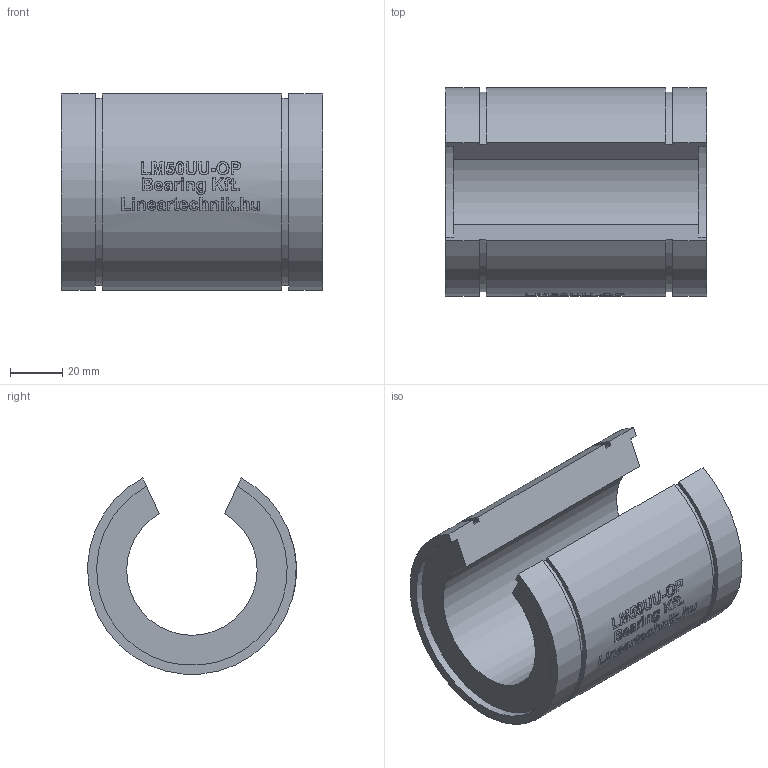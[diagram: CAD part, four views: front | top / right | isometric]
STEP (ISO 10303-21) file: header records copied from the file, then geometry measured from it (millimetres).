
FILE_DESCRIPTION(/* description */ (''),/* implementation_level */ '2;1');
FILE_NAME(/* name */ 'LM50UU-OP',/* time_stamp */ '2019-07-10T16:11:45+02:00',/* author */ ('VĂ©gh MĂˇtĂ©'),/* organization */ ('Bearing Kft'),/* preprocessor_version */ 'ST-DEVELOPER v16.7',/* originating_system */ 'DEX',/* authorisation */ $);
FILE_SCHEMA (('AUTOMOTIVE_DESIGN {1 0 10303 214 3 1 1}'));
Length unit declared in the file: millimetre
Products named in the file (1): LM50UU-OP
Bounding box: 100 x 79.94 x 75.13 mm (x, y, z)
Volume: 244114 mm3; surface area: 44132.8 mm2
Topology: 1 solids, 1 shells, 324 faces, 817 edges, 545 vertices
Faces by surface type: plane 168, bspline 98, cylinder 58
Entity records: 19657 total; most frequent: CARTESIAN_POINT 12362, ORIENTED_EDGE 1624, DIRECTION 1223, EDGE_CURVE 812, VERTEX_POINT 545, LINE 455, VECTOR 455, AXIS2_PLACEMENT_3D 384
